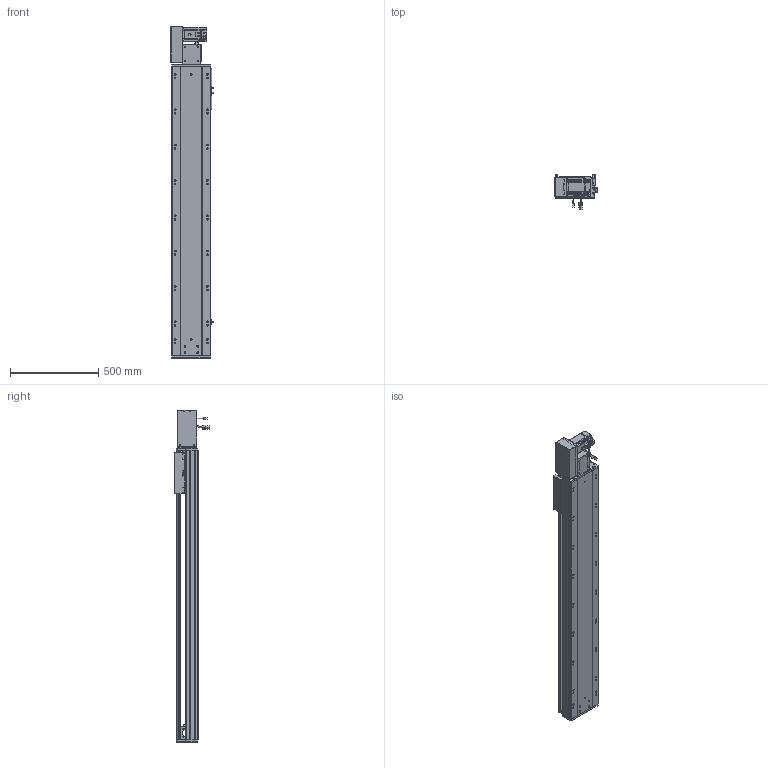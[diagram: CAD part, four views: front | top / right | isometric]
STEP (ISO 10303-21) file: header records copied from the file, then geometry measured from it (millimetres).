
FILE_DESCRIPTION (( 'STEP AP203' ), '1' );
FILE_NAME ('RY220-T-300-LK.SLDASM_1300.step', '2022-07-25T08:14:17', ( '' ), ( '' ), 'SwSTEP 2.0', 'SolidWorks 2016', '' );
FILE_SCHEMA (( 'CONFIG_CONTROL_DESIGN' ));
Length unit declared in the file: millimetre
Products named in the file (14): RY220翋肮祭謫裔啣; RY220-T-蛌殏萇儂假蚾啣(750W); RY220-T菁釱-300_1300; 滅袉蝶18-15; RY220-T-300-奻裔啣_1300; RY220-T-湍謫欶(鍼踢); 怢湛750W_ECMA-CX0807ES; RY220-俋离672覜茼んえ; 110A-T-肮祭謫釱傷裔; RY220-同步轮副支撑座6304×2; RY220翋肮祭謫釱; RY220圉猾敕々湍臏賑輸; 覜茼ん672; RY220-T-300-LK.SLDASM_1300
Assembly tree (18 placements, depth 2):
  RY220-T-300-LK.SLDASM_1300
    RY220-T菁釱-300_1300
    RY220翋肮祭謫釱
    覜茼ん672  x3
    RY220圉猾敕々湍臏賑輸
    RY220-T-300-奻裔啣_1300
    RY220-俋离672覜茼んえ
    滅袉蝶18-15  x3
    RY220翋肮祭謫裔啣  x2
    110A-T-肮祭謫釱傷裔
    怢湛750W_ECMA-CX0807ES
    RY220-T-湍謫欶(鍼踢)
    RY220-T-蛌殏萇儂假蚾啣(750W)
    RY220-同步轮副支撑座6304×2
Bounding box: 239.7 x 198.77 x 1879 mm (x, y, z)
Volume: 14199990.4 mm3; surface area: 4213587.1 mm2
Topology: 19 solids, 19 shells, 2692 faces, 7431 edges, 4704 vertices
Faces by surface type: cylinder 1272, plane 1069, cone 269, bspline 56, sphere 16, torus 10
Entity records: 89603 total; most frequent: CARTESIAN_POINT 25515, ORIENTED_EDGE 13306, DIRECTION 12620, EDGE_CURVE 6653, AXIS2_PLACEMENT_3D 4478, VERTEX_POINT 4328, VECTOR 3664, LINE 3664
